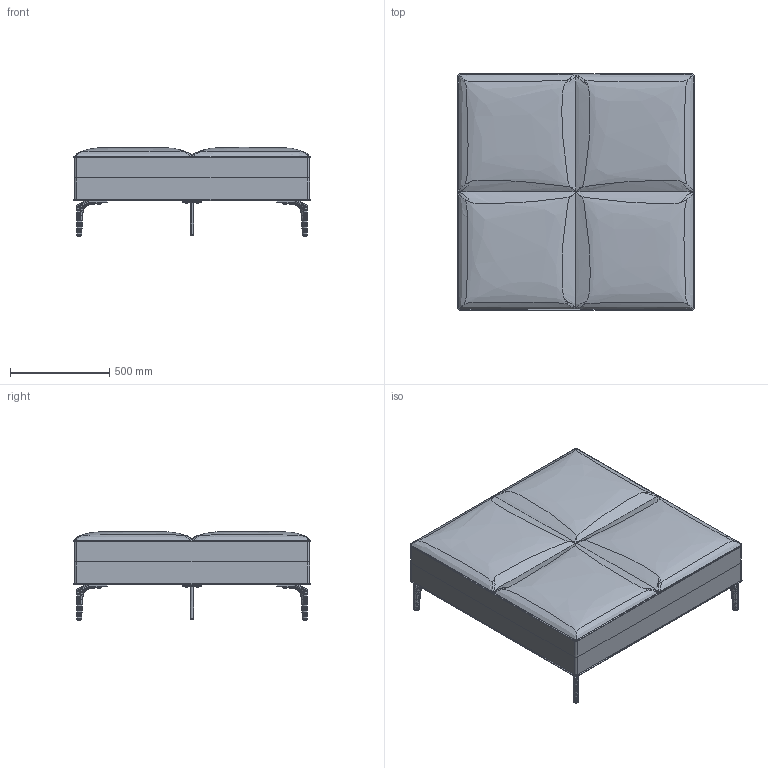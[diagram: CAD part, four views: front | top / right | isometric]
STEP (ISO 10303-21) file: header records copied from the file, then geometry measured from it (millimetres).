
FILE_DESCRIPTION(/* description */ (''),/* implementation_level */ '2;1');
FILE_NAME(/* name */ 'kinoshita_abord_f015t-2',/* time_stamp */ '2025-09-16T11:30:14+09:00',/* author */ (''),/* organization */ (''),/* preprocessor_version */ 'ST-DEVELOPER v16.5',/* originating_system */ '',/* authorisation */ '');
FILE_SCHEMA (('AUTOMOTIVE_DESIGN'));
Products named in the file (1): Document
Bounding box: 1194.86 x 1194.88 x 449.4 mm (x, y, z)
Volume: 360252294.1 mm3; surface area: 4334295.2 mm2
Topology: 28 solids, 32 shells, 1866 faces, 4297 edges, 2440 vertices
Faces by surface type: bspline 1657, plane 209
Entity records: 380337 total; most frequent: CARTESIAN_POINT 353739, ORIENTED_EDGE 8490, EDGE_CURVE 4289, B_SPLINE_CURVE_WITH_KNOTS 3565, VERTEX_POINT 2440, EDGE_LOOP 1935, ADVANCED_FACE 1866, FACE_OUTER_BOUND 1866
